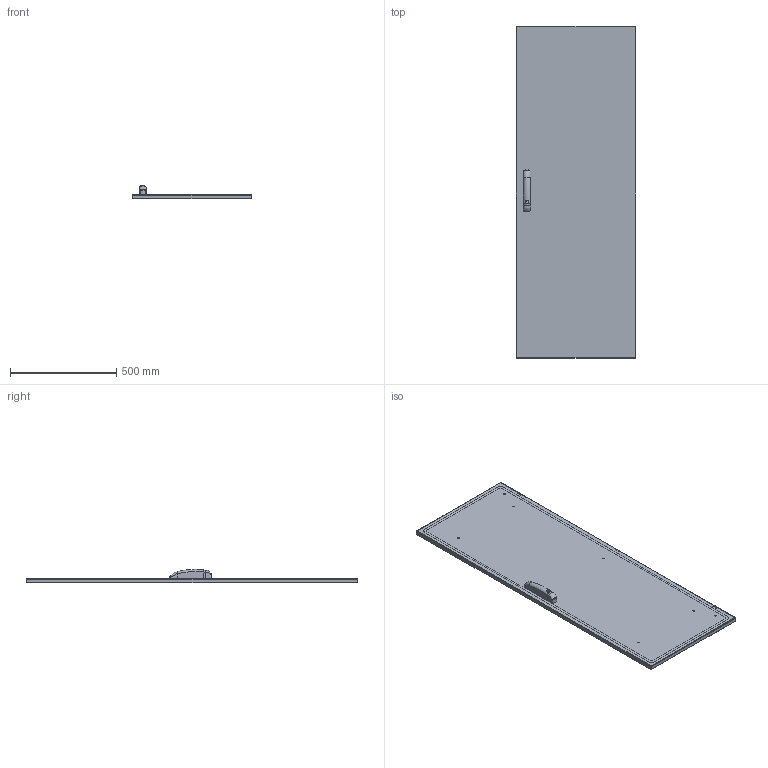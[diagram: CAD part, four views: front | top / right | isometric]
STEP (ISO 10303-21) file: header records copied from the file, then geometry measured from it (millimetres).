
FILE_DESCRIPTION (( 'STEP AP203' ), '1' );
FILE_NAME ('EUPF060160.STEP', '2021-03-15T10:38:53', ( '' ), ( '' ), 'SwSTEP 2.0', 'SolidWorks 2019', '' );
FILE_SCHEMA (( 'CONFIG_CONTROL_DESIGN' ));
Length unit declared in the file: millimetre
Products named in the file (3): EUPF060160; AR_ENUX_Porta_laterale EUPF_2.0_0600x1600; AR_ENUX_nuova_maniglia_mesan
Assembly tree (2 placements, depth 2):
  EUPF060160
    AR_ENUX_Porta_laterale EUPF_2.0_0600x1600
    AR_ENUX_nuova_maniglia_mesan
Bounding box: 562 x 1560 x 62 mm (x, y, z)
Volume: 2330212 mm3; surface area: 1954798.8 mm2
Topology: 6 solids, 6 shells, 181 faces, 401 edges, 240 vertices
Faces by surface type: cylinder 79, plane 47, bspline 25, cone 16, sphere 8, torus 6
Entity records: 8715 total; most frequent: CARTESIAN_POINT 4508, DIRECTION 836, ORIENTED_EDGE 778, EDGE_CURVE 389, AXIS2_PLACEMENT_3D 345, VERTEX_POINT 240, EDGE_LOOP 213, CIRCLE 184
